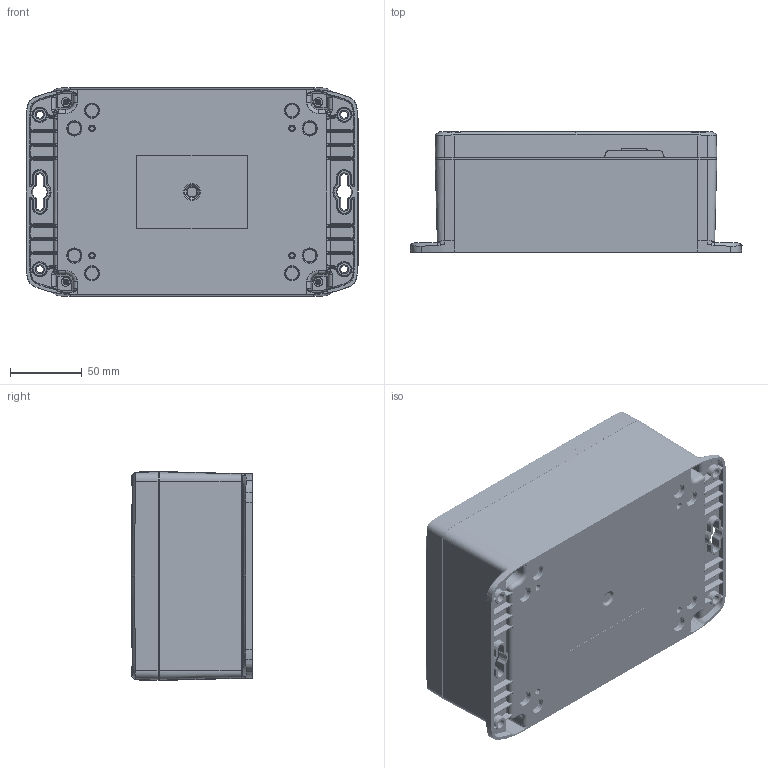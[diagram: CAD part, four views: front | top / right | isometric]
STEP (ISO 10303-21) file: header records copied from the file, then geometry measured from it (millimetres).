
FILE_DESCRIPTION (( 'STEP AP214' ), '1' );
FILE_NAME ('HN-68-03.STEP', '2026-02-24T14:50:07', ( '' ), ( '' ), 'SwSTEP 2.0', 'SolidWorks 2025', '' );
FILE_SCHEMA (( 'AUTOMOTIVE_DESIGN' ));
Length unit declared in the file: inch
Products named in the file (9): HN-68-03; LABEL-100; SCREWS-054_DEFAULT; HN-68G_default; HN-68B_HN-68BF-00; INSERTS-3_INSERTS-3; HN-68CG_HN-68CG-00; HN-68BN_HN-68BFN-00; HN-68C_HN-68C-00
Assembly tree (14 placements, depth 3):
  HN-68-03
    HN-68B_HN-68BF-00
      HN-68BN_HN-68BFN-00
      INSERTS-3_INSERTS-3  x4
      LABEL-100
    HN-68CG_HN-68CG-00
      HN-68C_HN-68C-00
      HN-68G_default
    SCREWS-054_DEFAULT  x4
Bounding box: 232.02 x 84.27 x 146.05 mm (x, y, z)
Volume: 414443.7 mm3; surface area: 270242.6 mm2
Topology: 11 solids, 13 shells, 5329 faces, 13019 edges, 7671 vertices
Faces by surface type: torus 1260, bspline 1186, cone 1174, cylinder 904, plane 735, sphere 70
Entity records: 187434 total; most frequent: CARTESIAN_POINT 84169, ORIENTED_EDGE 23422, DIRECTION 19899, EDGE_CURVE 11714, AXIS2_PLACEMENT_3D 8660, VERTEX_POINT 7005, EDGE_LOOP 4930, CIRCLE 4920
